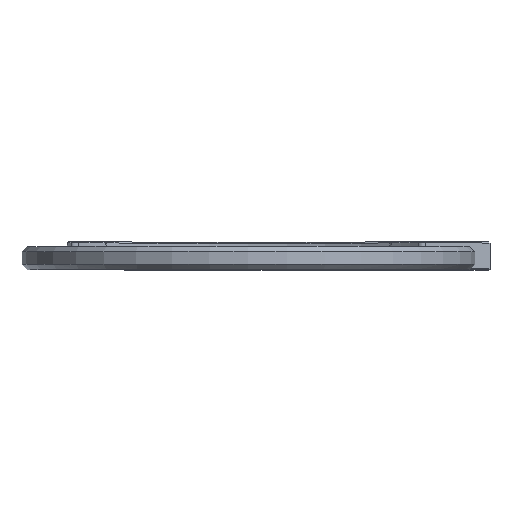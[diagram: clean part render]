
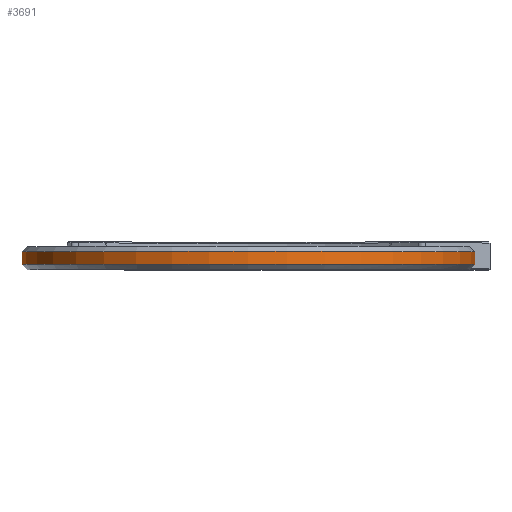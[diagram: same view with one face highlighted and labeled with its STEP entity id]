
A CAD part, top view. The second image highlights one B-rep face of the part: STEP entity #3691.
In plain terms, the highlighted cylindrical face has radius 89 mm (diameter 178 mm), a partial arc.
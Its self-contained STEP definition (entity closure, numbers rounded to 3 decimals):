
#89=CYLINDRICAL_SURFACE('',#4085,89.);
#352=FACE_OUTER_BOUND('',#594,.T.);
#594=EDGE_LOOP('',(#3078,#3079,#3080,#3081));
#891=LINE('',#6300,#1210);
#892=LINE('',#6315,#1211);
#1210=VECTOR('',#5015,10.);
#1211=VECTOR('',#5020,10.);
#1488=CIRCLE('',#4086,89.);
#1489=CIRCLE('',#4087,89.);
#1770=VERTEX_POINT('',#6288);
#1771=VERTEX_POINT('',#6299);
#1772=VERTEX_POINT('',#6312);
#1773=VERTEX_POINT('',#6314);
#2224=EDGE_CURVE('',#1770,#1771,#891,.T.);
#2226=EDGE_CURVE('',#1772,#1770,#1488,.T.);
#2227=EDGE_CURVE('',#1773,#1772,#892,.T.);
#2228=EDGE_CURVE('',#1771,#1773,#1489,.T.);
#3078=ORIENTED_EDGE('',*,*,#2224,.F.);
#3079=ORIENTED_EDGE('',*,*,#2226,.F.);
#3080=ORIENTED_EDGE('',*,*,#2227,.F.);
#3081=ORIENTED_EDGE('',*,*,#2228,.F.);
#3691=ADVANCED_FACE('',(#352),#89,.T.);
#4085=AXIS2_PLACEMENT_3D('',#6311,#5016,#5017);
#4086=AXIS2_PLACEMENT_3D('',#6313,#5018,#5019);
#4087=AXIS2_PLACEMENT_3D('',#6316,#5021,#5022);
#5015=DIRECTION('',(0.,1.,0.));
#5016=DIRECTION('center_axis',(0.,1.,0.));
#5017=DIRECTION('ref_axis',(0.,0.,1.));
#5018=DIRECTION('center_axis',(0.,-1.,0.));
#5019=DIRECTION('ref_axis',(1.,0.,0.));
#5020=DIRECTION('',(0.,-1.,0.));
#5021=DIRECTION('center_axis',(0.,1.,0.));
#5022=DIRECTION('ref_axis',(1.,0.,0.));
#6288=CARTESIAN_POINT('',(-69.419,-1.5,-55.696));
#6299=CARTESIAN_POINT('',(-69.419,3.5,-55.696));
#6300=CARTESIAN_POINT('',(-69.419,0.,-55.696));
#6311=CARTESIAN_POINT('Origin',(0.,0.,0.));
#6312=CARTESIAN_POINT('',(69.419,-1.5,-55.696));
#6313=CARTESIAN_POINT('Origin',(0.,-1.5,0.));
#6314=CARTESIAN_POINT('',(69.419,3.5,-55.696));
#6315=CARTESIAN_POINT('',(69.419,0.,-55.696));
#6316=CARTESIAN_POINT('Origin',(0.,3.5,0.));
